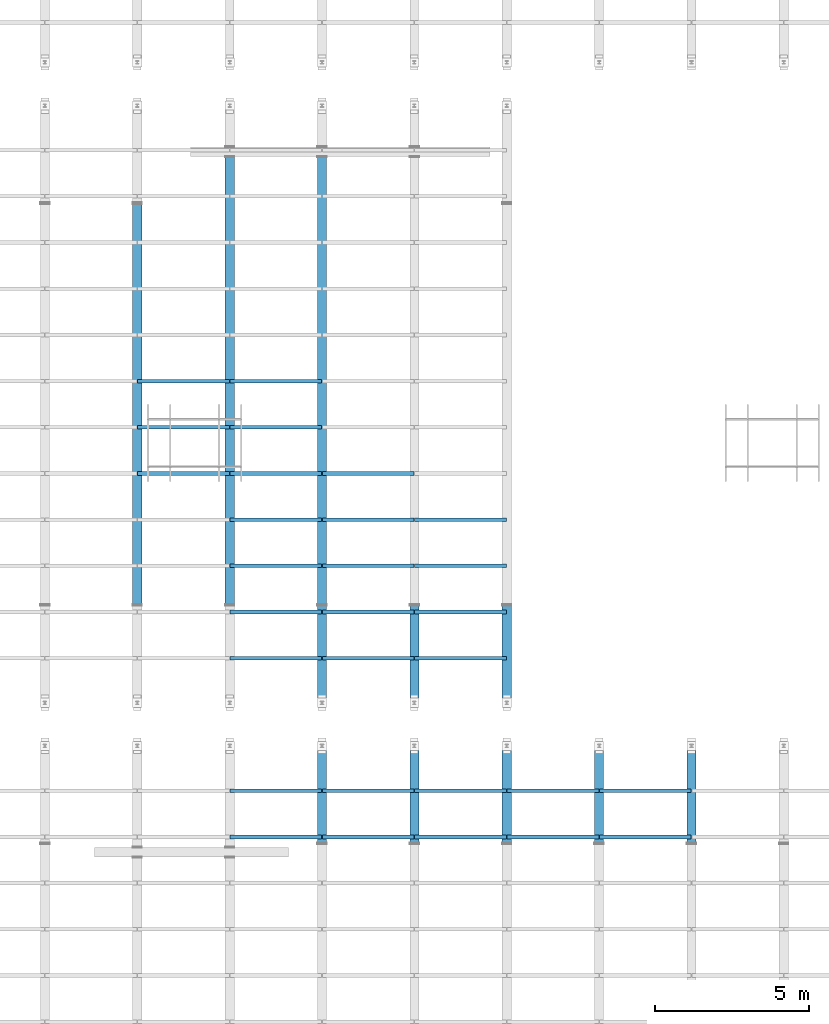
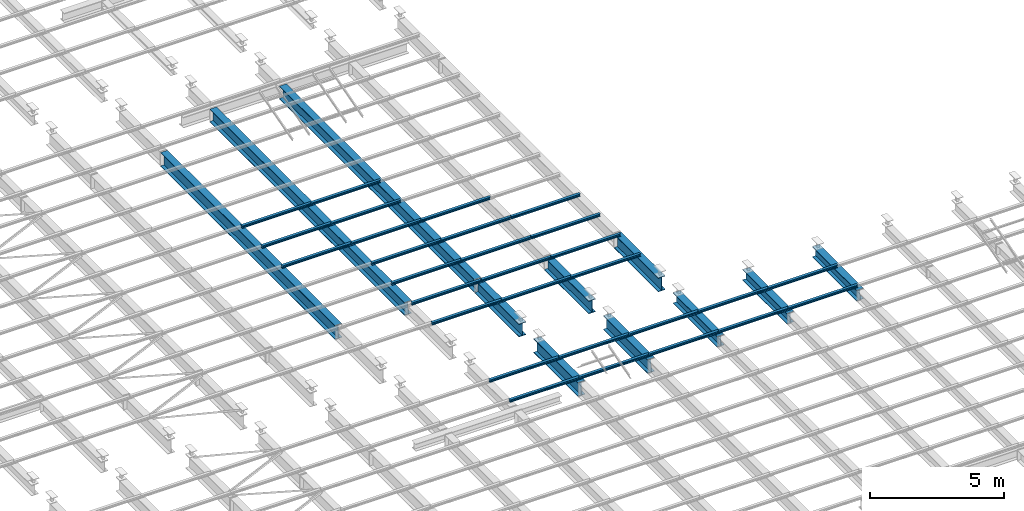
# One storey, part 49 of 139: 40 beams.
"""IFC2X3 building model written with IfcOpenShell, lengths in metres."""

from ifc_helpers import new_model, entity, si_unit, converted_unit, derived_unit, frame, origin, place, context, subcontext, project, spatial, polyline, outline, extrude, material, element, save


model = new_model("IFC2X3")

# Units and contexts
model_context = context("Model", 3, precision=1e-05, world=origin())
body_context = subcontext(model_context, "Body", "Model", "MODEL_VIEW")
ifc_project = project(units=[si_unit("LENGTHUNIT", "METRE"), si_unit("AREAUNIT", "SQUARE_METRE"), si_unit("VOLUMEUNIT", "CUBIC_METRE"), si_unit("MASSUNIT", "GRAM", prefix="KILO"), converted_unit("PLANEANGLEUNIT", "DEGREE", entity("IfcPlaneAngleMeasure", 0.0174532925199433), si_unit("PLANEANGLEUNIT", "RADIAN"), dimensions=[0, 0, 0, 0, 0, 0, 0]), derived_unit("THERMALTRANSMITTANCEUNIT", [(si_unit("POWERUNIT", "WATT"), 1), (si_unit("THERMODYNAMICTEMPERATUREUNIT", "KELVIN"), -1), (si_unit("LENGTHUNIT", "METRE"), -2)]), derived_unit("VOLUMETRICFLOWRATEUNIT", [(si_unit("LENGTHUNIT", "METRE"), 3), (converted_unit("TIMEUNIT", "hour", entity("IfcTimeMeasure", 3600.0), si_unit("TIMEUNIT", "SECOND"), dimensions=[0, 0, 1, 0, 0, 0, 0]), -1), (si_unit("LENGTHUNIT", "METRE"), -1)])], contexts=[model_context])

# Site, building, storey
site_placement = place(None, origin())
site = spatial("IfcSite", under=ifc_project, at=site_placement, Name="TWP_Speiseverteilzentrum SBW VZ II", CompositionType="ELEMENT")
building_placement = place(site_placement, origin())
building = spatial("IfcBuilding", under=site, at=building_placement, Name="Speiseverteilzentrum SBW VZ II", CompositionType="ELEMENT")
storey_placement = place(building_placement, frame((0.0, 0.0, 7.1307)))
storey = spatial("IfcBuildingStorey", under=building, at=storey_placement, Name="Wartung_FFB", CompositionType="ELEMENT", Elevation=7.1307)

# Beams
ifc_material_1 = material(Name="S235")
beam_1_placement = place(storey_placement, frame((55.0500000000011, 47.7020742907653, -0.51), z_axis=(0.0, 0.0, 1.0), x_axis=(-1.0, 0.0, 0.0)))
element("IfcBeam", 1, at=beam_1_placement, inside=storey, material=ifc_material_1, Name="Stahlträger", context=body_context, shape_type="SweptSolid", body=[
    extrude(outline(polyline([(-0.15, 0.32), (-0.15, 0.294), (-0.00675000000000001, 0.294), (-0.00675000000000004, -0.294), (-0.15, -0.294), (-0.15, -0.32), (0.15, -0.32), (0.15, -0.294), (0.00674999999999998, -0.294), (0.00675000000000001, 0.294), (0.15, 0.294), (0.15, 0.32), (-0.15, 0.32)])), frame((0.0, 0.0, 0.0), z_axis=(0.0, 1.0, 0.0), x_axis=(-1.0, 0.0, 0.0)), (0.0, 0.0, 1.0), 13.0041485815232),
])
ifc_material_2 = material(Name="S235")
beam_2_placement = place(storey_placement, frame((58.0500000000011, 49.224720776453, -0.485), z_axis=(0.0, 0.0, 1.0), x_axis=(-1.0, 0.0, 0.0)))
element("IfcBeam", 2, at=beam_2_placement, inside=storey, material=ifc_material_2, Name="Stahlträger", context=body_context, shape_type="SweptSolid", body=[
    extrude(outline(polyline([(-0.15, 0.295), (-0.15, 0.27), (-0.0065, 0.27), (-0.00650000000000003, -0.27), (-0.15, -0.27), (-0.15, -0.295), (0.15, -0.295), (0.15, -0.27), (0.00649999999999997, -0.27), (0.00650000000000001, 0.27), (0.15, 0.27), (0.15, 0.295), (-0.15, 0.295)])), frame((0.0, 0.0, 0.0), z_axis=(0.0, 1.0, 0.0), x_axis=(-1.0, 0.0, 0.0)), (0.0, 0.0, 1.0), 14.5267950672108),
])
ifc_material_3 = material(Name="S235")
beam_3_placement = place(storey_placement, frame((61.0500000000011, 49.224720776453, -0.485), z_axis=(0.0, 0.0, 1.0), x_axis=(-1.0, 0.0, 0.0)))
element("IfcBeam", 3, at=beam_3_placement, inside=storey, material=ifc_material_3, Name="Stahlträger", context=body_context, shape_type="SweptSolid", body=[
    extrude(outline(polyline([(-0.15, 0.295), (-0.15, 0.27), (-0.0065, 0.27), (-0.00650000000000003, -0.27), (-0.15, -0.27), (-0.15, -0.295), (0.15, -0.295), (0.15, -0.27), (0.00649999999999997, -0.27), (0.00650000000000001, 0.27), (0.15, 0.27), (0.15, 0.295), (-0.15, 0.295)])), frame((0.0, 0.0, 0.0), z_axis=(0.0, 1.0, 0.0), x_axis=(-1.0, 0.0, 0.0)), (0.0, 0.0, 1.0), 14.5267950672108),
])
ifc_material_4 = material(Name="S235")
beam_4_placement = place(storey_placement, frame((67.0500000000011, 34.6479257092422, -0.51), z_axis=(0.0, 0.0, 1.0), x_axis=(-1.0, 0.0, 0.0)))
element("IfcBeam", 4, at=beam_4_placement, inside=storey, material=ifc_material_4, Name="Stahlträger", context=body_context, shape_type="SweptSolid", body=[
    extrude(outline(polyline([(-0.15, 0.32), (-0.15, 0.294), (-0.00675000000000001, 0.294), (-0.00675000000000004, -0.294), (-0.15, -0.294), (-0.15, -0.32), (0.15, -0.32), (0.15, -0.294), (0.00674999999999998, -0.294), (0.00675000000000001, 0.294), (0.15, 0.294), (0.15, 0.32), (-0.15, 0.32)])), frame((0.0, 0.0, 0.0), z_axis=(0.0, 1.0, 0.0), x_axis=(-1.0, 0.0, 0.0)), (0.0, 0.0, 1.0), 3.29792570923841),
])
ifc_material_5 = material(Name="S235")
beam_5_placement = place(storey_placement, frame((61.0500000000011, 34.6479257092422, -0.485), z_axis=(0.0, 0.0, 1.0), x_axis=(-1.0, 0.0, 0.0)))
element("IfcBeam", 5, at=beam_5_placement, inside=storey, material=ifc_material_5, Name="Stahlträger", context=body_context, shape_type="SweptSolid", body=[
    extrude(outline(polyline([(-0.15, 0.295), (-0.15, 0.27), (-0.0065, 0.27), (-0.00650000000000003, -0.27), (-0.15, -0.27), (-0.15, -0.295), (0.15, -0.295), (0.15, -0.27), (0.00649999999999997, -0.27), (0.00650000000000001, 0.27), (0.15, 0.27), (0.15, 0.295), (-0.15, 0.295)])), frame((0.0, 0.0, 0.0), z_axis=(0.0, 1.0, 0.0), x_axis=(-1.0, 0.0, 0.0)), (0.0, 0.0, 1.0), 3.29792570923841),
])
ifc_material_6 = material(Name="S235")
beam_6_placement = place(storey_placement, frame((64.0500000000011, 34.6479257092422, -0.485), z_axis=(0.0, 0.0, 1.0), x_axis=(-1.0, 0.0, 0.0)))
element("IfcBeam", 6, at=beam_6_placement, inside=storey, material=ifc_material_6, Name="Stahlträger", context=body_context, shape_type="SweptSolid", body=[
    extrude(outline(polyline([(-0.15, 0.295), (-0.15, 0.27), (-0.0065, 0.27), (-0.00650000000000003, -0.27), (-0.15, -0.27), (-0.15, -0.295), (0.15, -0.295), (0.15, -0.27), (0.00649999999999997, -0.27), (0.00650000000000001, 0.27), (0.15, 0.27), (0.15, 0.295), (-0.15, 0.295)])), frame((0.0, 0.0, 0.0), z_axis=(0.0, 1.0, 0.0), x_axis=(-1.0, 0.0, 0.0)), (0.0, 0.0, 1.0), 3.29792570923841),
])
ifc_material_7 = material(Name="S235")
beam_7_placement = place(storey_placement, frame((61.0500000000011, 30.2500000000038, -0.51), z_axis=(0.0, 0.0, 1.0), x_axis=(-1.0, 0.0, 0.0)))
element("IfcBeam", 7, at=beam_7_placement, inside=storey, material=ifc_material_7, Name="Stahlträger", context=body_context, shape_type="SweptSolid", body=[
    extrude(outline(polyline([(-0.15, 0.32), (-0.15, 0.294), (-0.00675000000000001, 0.294), (-0.00675000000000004, -0.294), (-0.15, -0.294), (-0.15, -0.32), (0.15, -0.32), (0.15, -0.294), (0.00674999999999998, -0.294), (0.00675000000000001, 0.294), (0.15, 0.294), (0.15, 0.32), (-0.15, 0.32)])), frame((0.0, 0.0, 0.0), z_axis=(0.0, 1.0, 0.0), x_axis=(-1.0, 0.0, 0.0)), (0.0, 0.0, 1.0), 3.29792570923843),
])
ifc_material_8 = material(Name="S235")
beam_8_placement = place(storey_placement, frame((64.0500000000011, 30.2500000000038, -0.51), z_axis=(0.0, 0.0, 1.0), x_axis=(-1.0, 0.0, 0.0)))
element("IfcBeam", 8, at=beam_8_placement, inside=storey, material=ifc_material_8, Name="Stahlträger", context=body_context, shape_type="SweptSolid", body=[
    extrude(outline(polyline([(-0.15, 0.32), (-0.15, 0.294), (-0.00675000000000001, 0.294), (-0.00675000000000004, -0.294), (-0.15, -0.294), (-0.15, -0.32), (0.15, -0.32), (0.15, -0.294), (0.00674999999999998, -0.294), (0.00675000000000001, 0.294), (0.15, 0.294), (0.15, 0.32), (-0.15, 0.32)])), frame((0.0, 0.0, 0.0), z_axis=(0.0, 1.0, 0.0), x_axis=(-1.0, 0.0, 0.0)), (0.0, 0.0, 1.0), 3.29792570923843),
])
ifc_material_9 = material(Name="S235")
beam_9_placement = place(storey_placement, frame((67.0500000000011, 30.2500000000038, -0.435), z_axis=(0.0, 0.0, 1.0), x_axis=(-1.0, 0.0, 0.0)))
element("IfcBeam", 9, at=beam_9_placement, inside=storey, material=ifc_material_9, Name="Stahlträger", context=body_context, shape_type="SweptSolid", body=[
    extrude(outline(polyline([(-0.15, 0.245), (-0.15, 0.222), (-0.00599999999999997, 0.222), (-0.006, -0.222), (-0.15, -0.222), (-0.15, -0.245), (0.15, -0.245), (0.15, -0.222), (0.00600000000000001, -0.222), (0.00600000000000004, 0.222), (0.15, 0.222), (0.15, 0.245), (-0.15, 0.245)])), frame((0.0, 0.0, 0.0), z_axis=(0.0, 1.0, 0.0), x_axis=(-1.0, 0.0, 0.0)), (0.0, 0.0, 1.0), 3.29792570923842),
])
ifc_material_10 = material(Name="S235")
beam_10_placement = place(storey_placement, frame((70.0500000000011, 30.2500000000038, -0.435), z_axis=(0.0, 0.0, 1.0), x_axis=(-1.0, 0.0, 0.0)))
element("IfcBeam", 10, at=beam_10_placement, inside=storey, material=ifc_material_10, Name="Stahlträger", context=body_context, shape_type="SweptSolid", body=[
    extrude(outline(polyline([(-0.15, 0.245), (-0.15, 0.222), (-0.00599999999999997, 0.222), (-0.006, -0.222), (-0.15, -0.222), (-0.15, -0.245), (0.15, -0.245), (0.15, -0.222), (0.00600000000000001, -0.222), (0.00600000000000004, 0.222), (0.15, 0.222), (0.15, 0.245), (-0.15, 0.245)])), frame((0.0, 0.0, 0.0), z_axis=(0.0, 1.0, 0.0), x_axis=(-1.0, 0.0, 0.0)), (0.0, 0.0, 1.0), 3.29792570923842),
])
ifc_material_11 = material(Name="S235")
beam_11_placement = place(storey_placement, frame((73.0500000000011, 30.2500000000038, -0.435), z_axis=(0.0, 0.0, 1.0), x_axis=(-1.0, 0.0, 0.0)))
element("IfcBeam", 11, at=beam_11_placement, inside=storey, material=ifc_material_11, Name="Stahlträger", context=body_context, shape_type="SweptSolid", body=[
    extrude(outline(polyline([(-0.15, 0.245), (-0.15, 0.222), (-0.00599999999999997, 0.222), (-0.006, -0.222), (-0.15, -0.222), (-0.15, -0.245), (0.15, -0.245), (0.15, -0.222), (0.00600000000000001, -0.222), (0.00600000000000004, 0.222), (0.15, 0.222), (0.15, 0.245), (-0.15, 0.245)])), frame((0.0, 0.0, 0.0), z_axis=(0.0, 1.0, 0.0), x_axis=(-1.0, 0.0, 0.0)), (0.0, 0.0, 1.0), 3.29792570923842),
])
ifc_material_12 = material(Name="S235")
beam_12_placement = place(storey_placement, frame((55.0600000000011, 41.9500000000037, -0.133), z_axis=(0.0, 0.0, 1.0), x_axis=(0.0, -1.0, 0.0)))
element("IfcBeam", 12, at=beam_12_placement, inside=storey, material=ifc_material_12, Name="Nebenträger", context=body_context, shape_type="SweptSolid", body=[
    extrude(outline(polyline([(-0.06, 0.0570000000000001), (-0.06, 0.0490000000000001), (-0.00249999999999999, 0.0490000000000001), (-0.0025, -0.0489999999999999), (-0.06, -0.0489999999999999), (-0.06, -0.0569999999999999), (0.06, -0.0569999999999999), (0.06, -0.0489999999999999), (0.0025, -0.0489999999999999), (0.00250000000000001, 0.0490000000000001), (0.06, 0.0490000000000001), (0.06, 0.0570000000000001), (-0.06, 0.0570000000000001)])), frame((0.0, 0.0, 0.0), z_axis=(0.0, 1.0, 0.0), x_axis=(-1.0, 0.0, 0.0)), (0.0, 0.0, 1.0), 2.98),
])
ifc_material_13 = material(Name="S235")
beam_13_placement = place(storey_placement, frame((58.0600000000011, 41.9500000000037, -0.133), z_axis=(0.0, 0.0, 1.0), x_axis=(0.0, -1.0, 0.0)))
element("IfcBeam", 13, at=beam_13_placement, inside=storey, material=ifc_material_13, Name="Nebenträger", context=body_context, shape_type="SweptSolid", body=[
    extrude(outline(polyline([(-0.06, 0.0570000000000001), (-0.06, 0.0490000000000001), (-0.00249999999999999, 0.0490000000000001), (-0.0025, -0.0489999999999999), (-0.06, -0.0489999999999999), (-0.06, -0.0569999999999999), (0.06, -0.0569999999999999), (0.06, -0.0489999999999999), (0.0025, -0.0489999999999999), (0.00250000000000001, 0.0490000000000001), (0.06, 0.0490000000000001), (0.06, 0.0570000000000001), (-0.06, 0.0570000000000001)])), frame((0.0, 0.0, 0.0), z_axis=(0.0, 1.0, 0.0), x_axis=(-1.0, 0.0, 0.0)), (0.0, 0.0, 1.0), 2.98),
])
ifc_material_14 = material(Name="S235")
beam_14_placement = place(storey_placement, frame((55.0600000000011, 40.4500000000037, -0.133), z_axis=(0.0, 0.0, 1.0), x_axis=(0.0, -1.0, 0.0)))
element("IfcBeam", 14, at=beam_14_placement, inside=storey, material=ifc_material_14, Name="Nebenträger", context=body_context, shape_type="SweptSolid", body=[
    extrude(outline(polyline([(-0.06, 0.0570000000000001), (-0.06, 0.0490000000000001), (-0.00249999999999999, 0.0490000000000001), (-0.0025, -0.0489999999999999), (-0.06, -0.0489999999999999), (-0.06, -0.0569999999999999), (0.06, -0.0569999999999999), (0.06, -0.0489999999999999), (0.0025, -0.0489999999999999), (0.00250000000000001, 0.0490000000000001), (0.06, 0.0490000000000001), (0.06, 0.0570000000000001), (-0.06, 0.0570000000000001)])), frame((0.0, 0.0, 0.0), z_axis=(0.0, 1.0, 0.0), x_axis=(-1.0, 0.0, 0.0)), (0.0, 0.0, 1.0), 2.98),
])
ifc_material_15 = material(Name="S235")
beam_15_placement = place(storey_placement, frame((58.0600000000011, 40.4500000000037, -0.133), z_axis=(0.0, 0.0, 1.0), x_axis=(0.0, -1.0, 0.0)))
element("IfcBeam", 15, at=beam_15_placement, inside=storey, material=ifc_material_15, Name="Nebenträger", context=body_context, shape_type="SweptSolid", body=[
    extrude(outline(polyline([(-0.06, 0.0570000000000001), (-0.06, 0.0490000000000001), (-0.00249999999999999, 0.0490000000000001), (-0.0025, -0.0489999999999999), (-0.06, -0.0489999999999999), (-0.06, -0.0569999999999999), (0.06, -0.0569999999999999), (0.06, -0.0489999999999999), (0.0025, -0.0489999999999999), (0.00250000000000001, 0.0490000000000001), (0.06, 0.0490000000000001), (0.06, 0.0570000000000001), (-0.06, 0.0570000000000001)])), frame((0.0, 0.0, 0.0), z_axis=(0.0, 1.0, 0.0), x_axis=(-1.0, 0.0, 0.0)), (0.0, 0.0, 1.0), 2.98),
])
ifc_material_16 = material(Name="S235")
beam_16_placement = place(storey_placement, frame((55.0600000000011, 38.9500000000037, -0.133), z_axis=(0.0, 0.0, 1.0), x_axis=(0.0, -1.0, 0.0)))
element("IfcBeam", 16, at=beam_16_placement, inside=storey, material=ifc_material_16, Name="Nebenträger", context=body_context, shape_type="SweptSolid", body=[
    extrude(outline(polyline([(-0.06, 0.0570000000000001), (-0.06, 0.0490000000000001), (-0.00249999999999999, 0.0490000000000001), (-0.0025, -0.0489999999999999), (-0.06, -0.0489999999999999), (-0.06, -0.0569999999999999), (0.06, -0.0569999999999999), (0.06, -0.0489999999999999), (0.0025, -0.0489999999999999), (0.00250000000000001, 0.0490000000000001), (0.06, 0.0490000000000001), (0.06, 0.0570000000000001), (-0.06, 0.0570000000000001)])), frame((0.0, 0.0, 0.0), z_axis=(0.0, 1.0, 0.0), x_axis=(-1.0, 0.0, 0.0)), (0.0, 0.0, 1.0), 2.98),
])
ifc_material_17 = material(Name="S235")
beam_17_placement = place(storey_placement, frame((58.0600000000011, 38.9500000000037, -0.133), z_axis=(0.0, 0.0, 1.0), x_axis=(0.0, -1.0, 0.0)))
element("IfcBeam", 17, at=beam_17_placement, inside=storey, material=ifc_material_17, Name="Nebenträger", context=body_context, shape_type="SweptSolid", body=[
    extrude(outline(polyline([(-0.06, 0.0570000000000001), (-0.06, 0.0490000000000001), (-0.00249999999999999, 0.0490000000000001), (-0.0025, -0.0489999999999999), (-0.06, -0.0489999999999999), (-0.06, -0.0569999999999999), (0.06, -0.0569999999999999), (0.06, -0.0489999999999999), (0.0025, -0.0489999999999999), (0.00250000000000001, 0.0490000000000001), (0.06, 0.0490000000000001), (0.06, 0.0570000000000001), (-0.06, 0.0570000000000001)])), frame((0.0, 0.0, 0.0), z_axis=(0.0, 1.0, 0.0), x_axis=(-1.0, 0.0, 0.0)), (0.0, 0.0, 1.0), 2.98),
])
ifc_material_18 = material(Name="S235")
beam_18_placement = place(storey_placement, frame((61.0600000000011, 38.9500000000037, -0.133), z_axis=(0.0, 0.0, 1.0), x_axis=(0.0, -1.0, 0.0)))
element("IfcBeam", 18, at=beam_18_placement, inside=storey, material=ifc_material_18, Name="Nebenträger", context=body_context, shape_type="SweptSolid", body=[
    extrude(outline(polyline([(-0.06, 0.0570000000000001), (-0.06, 0.0490000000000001), (-0.00249999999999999, 0.0490000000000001), (-0.0025, -0.0489999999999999), (-0.06, -0.0489999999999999), (-0.06, -0.0569999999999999), (0.06, -0.0569999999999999), (0.06, -0.0489999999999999), (0.0025, -0.0489999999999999), (0.00250000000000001, 0.0490000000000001), (0.06, 0.0490000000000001), (0.06, 0.0570000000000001), (-0.06, 0.0570000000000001)])), frame((0.0, 0.0, 0.0), z_axis=(0.0, 1.0, 0.0), x_axis=(-1.0, 0.0, 0.0)), (0.0, 0.0, 1.0), 2.98),
])
ifc_material_19 = material(Name="S235")
beam_19_placement = place(storey_placement, frame((64.0600000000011, 37.4500000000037, -0.133), z_axis=(0.0, 0.0, 1.0), x_axis=(0.0, -1.0, 0.0)))
element("IfcBeam", 19, at=beam_19_placement, inside=storey, material=ifc_material_19, Name="Nebenträger", context=body_context, shape_type="SweptSolid", body=[
    extrude(outline(polyline([(-0.06, 0.0570000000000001), (-0.06, 0.0490000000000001), (-0.00249999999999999, 0.0490000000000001), (-0.0025, -0.0489999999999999), (-0.06, -0.0489999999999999), (-0.06, -0.0569999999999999), (0.06, -0.0569999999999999), (0.06, -0.0489999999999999), (0.0025, -0.0489999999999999), (0.00250000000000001, 0.0490000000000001), (0.06, 0.0490000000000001), (0.06, 0.0570000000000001), (-0.06, 0.0570000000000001)])), frame((0.0, 0.0, 0.0), z_axis=(0.0, 1.0, 0.0), x_axis=(-1.0, 0.0, 0.0)), (0.0, 0.0, 1.0), 2.98000000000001),
])
ifc_material_20 = material(Name="S235")
beam_20_placement = place(storey_placement, frame((58.0600000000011, 37.4500000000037, -0.133), z_axis=(0.0, 0.0, 1.0), x_axis=(0.0, -1.0, 0.0)))
element("IfcBeam", 20, at=beam_20_placement, inside=storey, material=ifc_material_20, Name="Nebenträger", context=body_context, shape_type="SweptSolid", body=[
    extrude(outline(polyline([(-0.06, 0.0570000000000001), (-0.06, 0.0490000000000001), (-0.00249999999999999, 0.0490000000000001), (-0.0025, -0.0489999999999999), (-0.06, -0.0489999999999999), (-0.06, -0.0569999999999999), (0.06, -0.0569999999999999), (0.06, -0.0489999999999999), (0.0025, -0.0489999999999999), (0.00250000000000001, 0.0490000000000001), (0.06, 0.0490000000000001), (0.06, 0.0570000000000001), (-0.06, 0.0570000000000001)])), frame((0.0, 0.0, 0.0), z_axis=(0.0, 1.0, 0.0), x_axis=(-1.0, 0.0, 0.0)), (0.0, 0.0, 1.0), 2.98),
])
ifc_material_21 = material(Name="S235")
beam_21_placement = place(storey_placement, frame((61.0600000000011, 37.4500000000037, -0.133), z_axis=(0.0, 0.0, 1.0), x_axis=(0.0, -1.0, 0.0)))
element("IfcBeam", 21, at=beam_21_placement, inside=storey, material=ifc_material_21, Name="Nebenträger", context=body_context, shape_type="SweptSolid", body=[
    extrude(outline(polyline([(-0.06, 0.0570000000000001), (-0.06, 0.0490000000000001), (-0.00249999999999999, 0.0490000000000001), (-0.0025, -0.0489999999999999), (-0.06, -0.0489999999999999), (-0.06, -0.0569999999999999), (0.06, -0.0569999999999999), (0.06, -0.0489999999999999), (0.0025, -0.0489999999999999), (0.00250000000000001, 0.0490000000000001), (0.06, 0.0490000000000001), (0.06, 0.0570000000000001), (-0.06, 0.0570000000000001)])), frame((0.0, 0.0, 0.0), z_axis=(0.0, 1.0, 0.0), x_axis=(-1.0, 0.0, 0.0)), (0.0, 0.0, 1.0), 2.98),
])
ifc_material_22 = material(Name="S235")
beam_22_placement = place(storey_placement, frame((64.0600000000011, 35.9500000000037, -0.133), z_axis=(0.0, 0.0, 1.0), x_axis=(0.0, -1.0, 0.0)))
element("IfcBeam", 22, at=beam_22_placement, inside=storey, material=ifc_material_22, Name="Nebenträger", context=body_context, shape_type="SweptSolid", body=[
    extrude(outline(polyline([(-0.06, 0.0570000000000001), (-0.06, 0.0490000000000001), (-0.00249999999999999, 0.0490000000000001), (-0.0025, -0.0489999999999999), (-0.06, -0.0489999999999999), (-0.06, -0.0569999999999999), (0.06, -0.0569999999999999), (0.06, -0.0489999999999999), (0.0025, -0.0489999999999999), (0.00250000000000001, 0.0490000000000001), (0.06, 0.0490000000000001), (0.06, 0.0570000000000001), (-0.06, 0.0570000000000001)])), frame((0.0, 0.0, 0.0), z_axis=(0.0, 1.0, 0.0), x_axis=(-1.0, 0.0, 0.0)), (0.0, 0.0, 1.0), 2.98000000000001),
])
ifc_material_23 = material(Name="S235")
beam_23_placement = place(storey_placement, frame((58.0600000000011, 35.9500000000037, -0.133), z_axis=(0.0, 0.0, 1.0), x_axis=(0.0, -1.0, 0.0)))
element("IfcBeam", 23, at=beam_23_placement, inside=storey, material=ifc_material_23, Name="Nebenträger", context=body_context, shape_type="SweptSolid", body=[
    extrude(outline(polyline([(-0.06, 0.0570000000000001), (-0.06, 0.0490000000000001), (-0.00249999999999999, 0.0490000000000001), (-0.0025, -0.0489999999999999), (-0.06, -0.0489999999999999), (-0.06, -0.0569999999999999), (0.06, -0.0569999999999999), (0.06, -0.0489999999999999), (0.0025, -0.0489999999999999), (0.00250000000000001, 0.0490000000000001), (0.06, 0.0490000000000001), (0.06, 0.0570000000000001), (-0.06, 0.0570000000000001)])), frame((0.0, 0.0, 0.0), z_axis=(0.0, 1.0, 0.0), x_axis=(-1.0, 0.0, 0.0)), (0.0, 0.0, 1.0), 2.98),
])
ifc_material_24 = material(Name="S235")
beam_24_placement = place(storey_placement, frame((61.0600000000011, 35.9500000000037, -0.133), z_axis=(0.0, 0.0, 1.0), x_axis=(0.0, -1.0, 0.0)))
element("IfcBeam", 24, at=beam_24_placement, inside=storey, material=ifc_material_24, Name="Nebenträger", context=body_context, shape_type="SweptSolid", body=[
    extrude(outline(polyline([(-0.06, 0.0570000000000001), (-0.06, 0.0490000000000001), (-0.00249999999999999, 0.0490000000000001), (-0.0025, -0.0489999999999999), (-0.06, -0.0489999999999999), (-0.06, -0.0569999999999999), (0.06, -0.0569999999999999), (0.06, -0.0489999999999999), (0.0025, -0.0489999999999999), (0.00250000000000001, 0.0490000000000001), (0.06, 0.0490000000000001), (0.06, 0.0570000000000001), (-0.06, 0.0570000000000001)])), frame((0.0, 0.0, 0.0), z_axis=(0.0, 1.0, 0.0), x_axis=(-1.0, 0.0, 0.0)), (0.0, 0.0, 1.0), 2.98),
])
ifc_material_25 = material(Name="S235")
beam_25_placement = place(storey_placement, frame((64.0600000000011, 34.4500000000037, -0.133), z_axis=(0.0, 0.0, 1.0), x_axis=(0.0, -1.0, 0.0)))
element("IfcBeam", 25, at=beam_25_placement, inside=storey, material=ifc_material_25, Name="Nebenträger", context=body_context, shape_type="SweptSolid", body=[
    extrude(outline(polyline([(-0.06, 0.0570000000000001), (-0.06, 0.0490000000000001), (-0.00249999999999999, 0.0490000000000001), (-0.0025, -0.0489999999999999), (-0.06, -0.0489999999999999), (-0.06, -0.0569999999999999), (0.06, -0.0569999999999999), (0.06, -0.0489999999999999), (0.0025, -0.0489999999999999), (0.00250000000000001, 0.0490000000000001), (0.06, 0.0490000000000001), (0.06, 0.0570000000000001), (-0.06, 0.0570000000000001)])), frame((0.0, 0.0, 0.0), z_axis=(0.0, 1.0, 0.0), x_axis=(-1.0, 0.0, 0.0)), (0.0, 0.0, 1.0), 2.98000000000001),
])
ifc_material_26 = material(Name="S235")
beam_26_placement = place(storey_placement, frame((58.0600000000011, 34.4500000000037, -0.133), z_axis=(0.0, 0.0, 1.0), x_axis=(0.0, -1.0, 0.0)))
element("IfcBeam", 26, at=beam_26_placement, inside=storey, material=ifc_material_26, Name="Nebenträger", context=body_context, shape_type="SweptSolid", body=[
    extrude(outline(polyline([(-0.06, 0.0570000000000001), (-0.06, 0.0490000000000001), (-0.00249999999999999, 0.0490000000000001), (-0.0025, -0.0489999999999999), (-0.06, -0.0489999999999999), (-0.06, -0.0569999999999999), (0.06, -0.0569999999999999), (0.06, -0.0489999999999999), (0.0025, -0.0489999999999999), (0.00250000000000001, 0.0490000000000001), (0.06, 0.0490000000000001), (0.06, 0.0570000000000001), (-0.06, 0.0570000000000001)])), frame((0.0, 0.0, 0.0), z_axis=(0.0, 1.0, 0.0), x_axis=(-1.0, 0.0, 0.0)), (0.0, 0.0, 1.0), 2.98),
])
ifc_material_27 = material(Name="S235")
beam_27_placement = place(storey_placement, frame((61.0600000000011, 34.4500000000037, -0.133), z_axis=(0.0, 0.0, 1.0), x_axis=(0.0, -1.0, 0.0)))
element("IfcBeam", 27, at=beam_27_placement, inside=storey, material=ifc_material_27, Name="Nebenträger", context=body_context, shape_type="SweptSolid", body=[
    extrude(outline(polyline([(-0.06, 0.0570000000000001), (-0.06, 0.0490000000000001), (-0.00249999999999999, 0.0490000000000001), (-0.0025, -0.0489999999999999), (-0.06, -0.0489999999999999), (-0.06, -0.0569999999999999), (0.06, -0.0569999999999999), (0.06, -0.0489999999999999), (0.0025, -0.0489999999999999), (0.00250000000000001, 0.0490000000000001), (0.06, 0.0490000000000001), (0.06, 0.0570000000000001), (-0.06, 0.0570000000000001)])), frame((0.0, 0.0, 0.0), z_axis=(0.0, 1.0, 0.0), x_axis=(-1.0, 0.0, 0.0)), (0.0, 0.0, 1.0), 2.98),
])
ifc_material_28 = material(Name="S235")
beam_28_placement = place(storey_placement, frame((64.0600000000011, 32.9500000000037, -0.133), z_axis=(0.0, 0.0, 1.0), x_axis=(0.0, -1.0, 0.0)))
element("IfcBeam", 28, at=beam_28_placement, inside=storey, material=ifc_material_28, Name="Nebenträger", context=body_context, shape_type="SweptSolid", body=[
    extrude(outline(polyline([(-0.06, 0.0570000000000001), (-0.06, 0.0490000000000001), (-0.00249999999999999, 0.0490000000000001), (-0.0025, -0.0489999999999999), (-0.06, -0.0489999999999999), (-0.06, -0.0569999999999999), (0.06, -0.0569999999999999), (0.06, -0.0489999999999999), (0.0025, -0.0489999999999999), (0.00250000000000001, 0.0490000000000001), (0.06, 0.0490000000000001), (0.06, 0.0570000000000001), (-0.06, 0.0570000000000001)])), frame((0.0, 0.0, 0.0), z_axis=(0.0, 1.0, 0.0), x_axis=(-1.0, 0.0, 0.0)), (0.0, 0.0, 1.0), 2.98000000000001),
])
ifc_material_29 = material(Name="S235")
beam_29_placement = place(storey_placement, frame((58.0600000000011, 32.9500000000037, -0.133), z_axis=(0.0, 0.0, 1.0), x_axis=(0.0, -1.0, 0.0)))
element("IfcBeam", 29, at=beam_29_placement, inside=storey, material=ifc_material_29, Name="Nebenträger", context=body_context, shape_type="SweptSolid", body=[
    extrude(outline(polyline([(-0.06, 0.0570000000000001), (-0.06, 0.0490000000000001), (-0.00249999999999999, 0.0490000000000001), (-0.0025, -0.0489999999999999), (-0.06, -0.0489999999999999), (-0.06, -0.0569999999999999), (0.06, -0.0569999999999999), (0.06, -0.0489999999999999), (0.0025, -0.0489999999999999), (0.00250000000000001, 0.0490000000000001), (0.06, 0.0490000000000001), (0.06, 0.0570000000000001), (-0.06, 0.0570000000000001)])), frame((0.0, 0.0, 0.0), z_axis=(0.0, 1.0, 0.0), x_axis=(-1.0, 0.0, 0.0)), (0.0, 0.0, 1.0), 2.98),
])
ifc_material_30 = material(Name="S235")
beam_30_placement = place(storey_placement, frame((61.0600000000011, 32.9500000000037, -0.133), z_axis=(0.0, 0.0, 1.0), x_axis=(0.0, -1.0, 0.0)))
element("IfcBeam", 30, at=beam_30_placement, inside=storey, material=ifc_material_30, Name="Nebenträger", context=body_context, shape_type="SweptSolid", body=[
    extrude(outline(polyline([(-0.06, 0.0570000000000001), (-0.06, 0.0490000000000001), (-0.00249999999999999, 0.0490000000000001), (-0.0025, -0.0489999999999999), (-0.06, -0.0489999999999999), (-0.06, -0.0569999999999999), (0.06, -0.0569999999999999), (0.06, -0.0489999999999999), (0.0025, -0.0489999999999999), (0.00250000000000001, 0.0490000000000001), (0.06, 0.0490000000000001), (0.06, 0.0570000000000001), (-0.06, 0.0570000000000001)])), frame((0.0, 0.0, 0.0), z_axis=(0.0, 1.0, 0.0), x_axis=(-1.0, 0.0, 0.0)), (0.0, 0.0, 1.0), 2.98),
])
ifc_material_31 = material(Name="S235")
beam_31_placement = place(storey_placement, frame((64.0600000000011, 28.6450742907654, -0.133), z_axis=(0.0, 0.0, 1.0), x_axis=(0.0, -1.0, 0.0)))
element("IfcBeam", 31, at=beam_31_placement, inside=storey, material=ifc_material_31, Name="Nebenträger", context=body_context, shape_type="SweptSolid", body=[
    extrude(outline(polyline([(-0.06, 0.0570000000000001), (-0.06, 0.0490000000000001), (-0.00249999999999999, 0.0490000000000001), (-0.0025, -0.0489999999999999), (-0.06, -0.0489999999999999), (-0.06, -0.0569999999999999), (0.06, -0.0569999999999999), (0.06, -0.0489999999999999), (0.0025, -0.0489999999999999), (0.00250000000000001, 0.0490000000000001), (0.06, 0.0490000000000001), (0.06, 0.0570000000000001), (-0.06, 0.0570000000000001)])), frame((0.0, 0.0, 0.0), z_axis=(0.0, 1.0, 0.0), x_axis=(-1.0, 0.0, 0.0)), (0.0, 0.0, 1.0), 2.98000000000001),
])
ifc_material_32 = material(Name="S235")
beam_32_placement = place(storey_placement, frame((67.0600000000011, 28.6450742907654, -0.133), z_axis=(0.0, 0.0, 1.0), x_axis=(0.0, -1.0, 0.0)))
element("IfcBeam", 32, at=beam_32_placement, inside=storey, material=ifc_material_32, Name="Nebenträger", context=body_context, shape_type="SweptSolid", body=[
    extrude(outline(polyline([(-0.06, 0.0570000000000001), (-0.06, 0.0490000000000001), (-0.00249999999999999, 0.0490000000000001), (-0.0025, -0.0489999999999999), (-0.06, -0.0489999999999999), (-0.06, -0.0569999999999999), (0.06, -0.0569999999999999), (0.06, -0.0489999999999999), (0.0025, -0.0489999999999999), (0.00250000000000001, 0.0490000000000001), (0.06, 0.0490000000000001), (0.06, 0.0570000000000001), (-0.06, 0.0570000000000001)])), frame((0.0, 0.0, 0.0), z_axis=(0.0, 1.0, 0.0), x_axis=(-1.0, 0.0, 0.0)), (0.0, 0.0, 1.0), 2.98),
])
ifc_material_33 = material(Name="S235")
beam_33_placement = place(storey_placement, frame((70.0600000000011, 28.6450742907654, -0.133), z_axis=(0.0, 0.0, 1.0), x_axis=(0.0, -1.0, 0.0)))
element("IfcBeam", 33, at=beam_33_placement, inside=storey, material=ifc_material_33, Name="Nebenträger", context=body_context, shape_type="SweptSolid", body=[
    extrude(outline(polyline([(-0.06, 0.0570000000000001), (-0.06, 0.0490000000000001), (-0.00249999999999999, 0.0490000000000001), (-0.0025, -0.0489999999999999), (-0.06, -0.0489999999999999), (-0.06, -0.0569999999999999), (0.06, -0.0569999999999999), (0.06, -0.0489999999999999), (0.0025, -0.0489999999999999), (0.00250000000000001, 0.0490000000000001), (0.06, 0.0490000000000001), (0.06, 0.0570000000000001), (-0.06, 0.0570000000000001)])), frame((0.0, 0.0, 0.0), z_axis=(0.0, 1.0, 0.0), x_axis=(-1.0, 0.0, 0.0)), (0.0, 0.0, 1.0), 2.98),
])
ifc_material_34 = material(Name="S235")
beam_34_placement = place(storey_placement, frame((58.0600000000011, 28.6450742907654, -0.133), z_axis=(0.0, 0.0, 1.0), x_axis=(0.0, -1.0, 0.0)))
element("IfcBeam", 34, at=beam_34_placement, inside=storey, material=ifc_material_34, Name="Nebenträger", context=body_context, shape_type="SweptSolid", body=[
    extrude(outline(polyline([(-0.06, 0.0570000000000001), (-0.06, 0.0490000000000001), (-0.00249999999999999, 0.0490000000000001), (-0.0025, -0.0489999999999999), (-0.06, -0.0489999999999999), (-0.06, -0.0569999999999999), (0.06, -0.0569999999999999), (0.06, -0.0489999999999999), (0.0025, -0.0489999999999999), (0.00250000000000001, 0.0490000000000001), (0.06, 0.0490000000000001), (0.06, 0.0570000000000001), (-0.06, 0.0570000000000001)])), frame((0.0, 0.0, 0.0), z_axis=(0.0, 1.0, 0.0), x_axis=(-1.0, 0.0, 0.0)), (0.0, 0.0, 1.0), 2.98),
])
ifc_material_35 = material(Name="S235")
beam_35_placement = place(storey_placement, frame((61.0600000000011, 28.6450742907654, -0.133), z_axis=(0.0, 0.0, 1.0), x_axis=(0.0, -1.0, 0.0)))
element("IfcBeam", 35, at=beam_35_placement, inside=storey, material=ifc_material_35, Name="Nebenträger", context=body_context, shape_type="SweptSolid", body=[
    extrude(outline(polyline([(-0.06, 0.0570000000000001), (-0.06, 0.0490000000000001), (-0.00249999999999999, 0.0490000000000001), (-0.0025, -0.0489999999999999), (-0.06, -0.0489999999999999), (-0.06, -0.0569999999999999), (0.06, -0.0569999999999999), (0.06, -0.0489999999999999), (0.0025, -0.0489999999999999), (0.00250000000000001, 0.0490000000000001), (0.06, 0.0490000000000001), (0.06, 0.0570000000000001), (-0.06, 0.0570000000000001)])), frame((0.0, 0.0, 0.0), z_axis=(0.0, 1.0, 0.0), x_axis=(-1.0, 0.0, 0.0)), (0.0, 0.0, 1.0), 2.98),
])
ifc_material_36 = material(Name="S235")
beam_36_placement = place(storey_placement, frame((64.0600000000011, 27.1450742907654, -0.133), z_axis=(0.0, 0.0, 1.0), x_axis=(0.0, -1.0, 0.0)))
element("IfcBeam", 36, at=beam_36_placement, inside=storey, material=ifc_material_36, Name="Nebenträger", context=body_context, shape_type="SweptSolid", body=[
    extrude(outline(polyline([(-0.06, 0.0570000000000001), (-0.06, 0.0490000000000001), (-0.00249999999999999, 0.0490000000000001), (-0.0025, -0.0489999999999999), (-0.06, -0.0489999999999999), (-0.06, -0.0569999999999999), (0.06, -0.0569999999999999), (0.06, -0.0489999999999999), (0.0025, -0.0489999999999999), (0.00250000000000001, 0.0490000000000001), (0.06, 0.0490000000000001), (0.06, 0.0570000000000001), (-0.06, 0.0570000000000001)])), frame((0.0, 0.0, 0.0), z_axis=(0.0, 1.0, 0.0), x_axis=(-1.0, 0.0, 0.0)), (0.0, 0.0, 1.0), 2.98000000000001),
])
ifc_material_37 = material(Name="S235")
beam_37_placement = place(storey_placement, frame((67.0600000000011, 27.1450742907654, -0.133), z_axis=(0.0, 0.0, 1.0), x_axis=(0.0, -1.0, 0.0)))
element("IfcBeam", 37, at=beam_37_placement, inside=storey, material=ifc_material_37, Name="Nebenträger", context=body_context, shape_type="SweptSolid", body=[
    extrude(outline(polyline([(-0.06, 0.0570000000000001), (-0.06, 0.0490000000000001), (-0.00249999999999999, 0.0490000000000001), (-0.0025, -0.0489999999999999), (-0.06, -0.0489999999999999), (-0.06, -0.0569999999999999), (0.06, -0.0569999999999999), (0.06, -0.0489999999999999), (0.0025, -0.0489999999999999), (0.00250000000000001, 0.0490000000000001), (0.06, 0.0490000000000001), (0.06, 0.0570000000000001), (-0.06, 0.0570000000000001)])), frame((0.0, 0.0, 0.0), z_axis=(0.0, 1.0, 0.0), x_axis=(-1.0, 0.0, 0.0)), (0.0, 0.0, 1.0), 2.98),
])
ifc_material_38 = material(Name="S235")
beam_38_placement = place(storey_placement, frame((70.0600000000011, 27.1450742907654, -0.133), z_axis=(0.0, 0.0, 1.0), x_axis=(0.0, -1.0, 0.0)))
element("IfcBeam", 38, at=beam_38_placement, inside=storey, material=ifc_material_38, Name="Nebenträger", context=body_context, shape_type="SweptSolid", body=[
    extrude(outline(polyline([(-0.06, 0.0570000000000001), (-0.06, 0.0490000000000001), (-0.00249999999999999, 0.0490000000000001), (-0.0025, -0.0489999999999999), (-0.06, -0.0489999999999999), (-0.06, -0.0569999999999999), (0.06, -0.0569999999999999), (0.06, -0.0489999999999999), (0.0025, -0.0489999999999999), (0.00250000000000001, 0.0490000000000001), (0.06, 0.0490000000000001), (0.06, 0.0570000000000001), (-0.06, 0.0570000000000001)])), frame((0.0, 0.0, 0.0), z_axis=(0.0, 1.0, 0.0), x_axis=(-1.0, 0.0, 0.0)), (0.0, 0.0, 1.0), 2.98),
])
ifc_material_39 = material(Name="S235")
beam_39_placement = place(storey_placement, frame((58.0600000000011, 27.1450742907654, -0.133), z_axis=(0.0, 0.0, 1.0), x_axis=(0.0, -1.0, 0.0)))
element("IfcBeam", 39, at=beam_39_placement, inside=storey, material=ifc_material_39, Name="Nebenträger", context=body_context, shape_type="SweptSolid", body=[
    extrude(outline(polyline([(-0.06, 0.0570000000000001), (-0.06, 0.0490000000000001), (-0.00249999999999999, 0.0490000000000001), (-0.0025, -0.0489999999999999), (-0.06, -0.0489999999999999), (-0.06, -0.0569999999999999), (0.06, -0.0569999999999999), (0.06, -0.0489999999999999), (0.0025, -0.0489999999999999), (0.00250000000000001, 0.0490000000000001), (0.06, 0.0490000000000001), (0.06, 0.0570000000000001), (-0.06, 0.0570000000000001)])), frame((0.0, 0.0, 0.0), z_axis=(0.0, 1.0, 0.0), x_axis=(-1.0, 0.0, 0.0)), (0.0, 0.0, 1.0), 2.98),
])
ifc_material_40 = material(Name="S235")
beam_40_placement = place(storey_placement, frame((61.0600000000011, 27.1450742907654, -0.133), z_axis=(0.0, 0.0, 1.0), x_axis=(0.0, -1.0, 0.0)))
element("IfcBeam", 40, at=beam_40_placement, inside=storey, material=ifc_material_40, Name="Nebenträger", context=body_context, shape_type="SweptSolid", body=[
    extrude(outline(polyline([(-0.06, 0.0570000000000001), (-0.06, 0.0490000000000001), (-0.00249999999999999, 0.0490000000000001), (-0.0025, -0.0489999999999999), (-0.06, -0.0489999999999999), (-0.06, -0.0569999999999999), (0.06, -0.0569999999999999), (0.06, -0.0489999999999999), (0.0025, -0.0489999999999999), (0.00250000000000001, 0.0490000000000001), (0.06, 0.0490000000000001), (0.06, 0.0570000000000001), (-0.06, 0.0570000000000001)])), frame((0.0, 0.0, 0.0), z_axis=(0.0, 1.0, 0.0), x_axis=(-1.0, 0.0, 0.0)), (0.0, 0.0, 1.0), 2.98),
])

save(model, "model.ifc")
